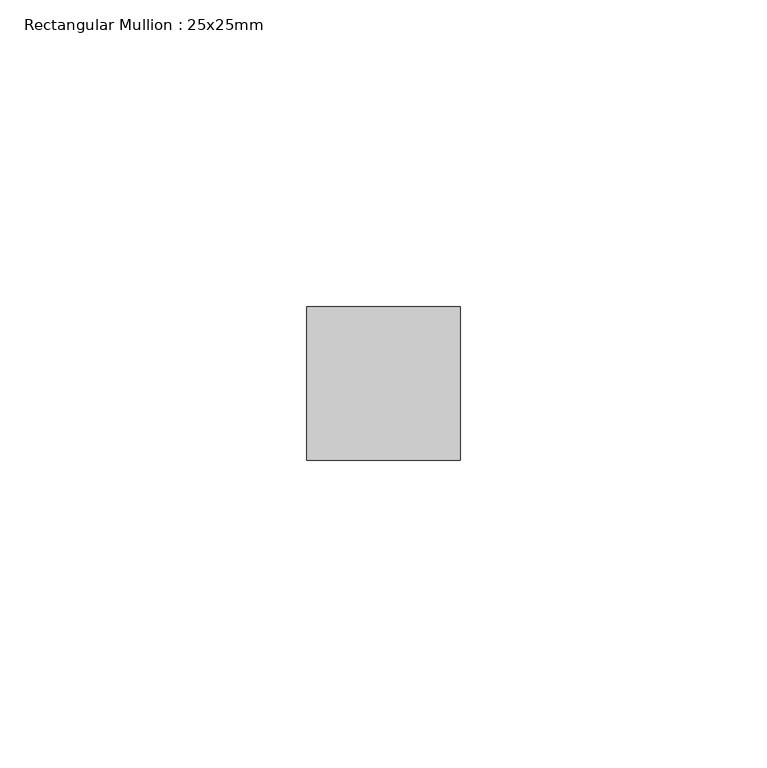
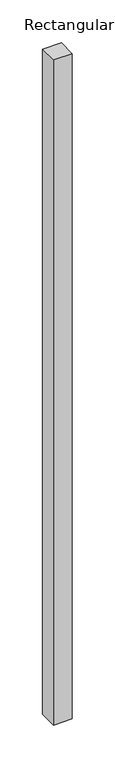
"""IFC4 building model written with IfcOpenShell, lengths in millimetres: member geometry, Rectangular Mullion : 25x25mm."""

import ifcopenshell
import ifcopenshell.guid

model = None  # the IFC model being written
_history = None  # IfcOwnerHistory: only IFC2X3 demands one
_inside = {}  # id of a spatial element -> (the spatial element, [elements in it])
_under = {}  # id of a project, library or spatial element -> (it, [spatial elements below it])
_declared = {}  # id of a project -> (the project, [libraries it declares])
_typed = {}  # id of a type object -> (the type object, [elements of that type])
_made_of = {}  # id of a material, layer set ... -> (it, [elements and type objects made of it])


def new_model(schema):
    """Start an empty IFC model of exactly this schema.

    Asked for "IFC4X3", IfcOpenShell would pick the latest addendum, in which some entities
    have other attributes; the version numbers below select the first issue.
    IFC2X3 requires an IfcOwnerHistory on every rooted entity: one is made here for all.
    """
    global model, _history
    if schema == "IFC4X3":
        model = ifcopenshell.file(schema_version=(4, 3, 0, 0))
    else:
        model = ifcopenshell.file(schema=schema)
    _inside.clear()
    _under.clear()
    _declared.clear()
    _typed.clear()
    _made_of.clear()
    _history = None
    if model.schema == "IFC2X3":
        org = make("IfcOrganization", Name="unknown")
        user = make(
            "IfcPersonAndOrganization",
            ThePerson=make("IfcPerson", FamilyName="unknown"),
            TheOrganization=org,
        )
        app = make(
            "IfcApplication",
            ApplicationDeveloper=org,
            Version="unknown",
            ApplicationFullName="unknown",
            ApplicationIdentifier="unknown",
        )
        _history = make(
            "IfcOwnerHistory",
            OwningUser=user,
            OwningApplication=app,
            ChangeAction="ADDED",
            CreationDate=0,
        )
    return model


def make(cls, **values):
    """One entity of the class cls with the attributes given. An attribute that is None is left unset."""
    return model.create_entity(
        cls, **{name: value for name, value in values.items() if value is not None}
    )


def rooted(cls, **values):
    """An entity with a GlobalId (a new one), such as an element, a storey or a relation."""
    return make(cls, GlobalId=ifcopenshell.guid.new(), OwnerHistory=_history, **values)


def si_unit(unit_type, name, prefix=None):
    """IfcSIUnit, for example si_unit("LENGTHUNIT", "METRE", prefix="MILLI")."""
    return make("IfcSIUnit", UnitType=unit_type, Prefix=prefix, Name=name)


def assignment(units):
    """IfcUnitAssignment: the units of a project."""
    return None if units is None else make("IfcUnitAssignment", Units=units)


def point(xyz):
    """IfcCartesianPoint."""
    return None if xyz is None else make("IfcCartesianPoint", Coordinates=xyz)


def direction(xyz):
    """IfcDirection."""
    return None if xyz is None else make("IfcDirection", DirectionRatios=xyz)


def frame(location, z_axis=None, x_axis=None):
    """IfcAxis2Placement3D, a coordinate frame: its origin and axes. An axis left out is left unset."""
    return make(
        "IfcAxis2Placement3D",
        Location=point(location),
        Axis=direction(z_axis),
        RefDirection=direction(x_axis),
    )


def origin():
    """The frame at (0, 0, 0) with its axes left unset."""
    return frame((0.0, 0.0, 0.0))


def place(relative_to, where):
    """IfcLocalPlacement: puts the frame where relative to a parent placement (None: the world)."""
    return make(
        "IfcLocalPlacement", PlacementRelTo=relative_to, RelativePlacement=where
    )


def context(
    kind, dimensions, precision=None, world=None, true_north=None, identifier=None
):
    """IfcGeometricRepresentationContext, for example the 3D "Model" context."""
    return make(
        "IfcGeometricRepresentationContext",
        ContextIdentifier=identifier,
        ContextType=kind,
        CoordinateSpaceDimension=dimensions,
        Precision=precision,
        WorldCoordinateSystem=world,
        TrueNorth=true_north,
    )


def project(units=None, contexts=None):
    """IfcProject with its units and contexts."""
    return rooted(
        "IfcProject",
        Name="project",
        RepresentationContexts=contexts,
        UnitsInContext=assignment(units),
    )


def spatial(cls, under=None, at=None, **own):
    """A site, building, storey or space (cls), placed at a placement, below another one or the project."""
    s = rooted(cls, ObjectPlacement=at, **own)
    if under is not None:
        _under.setdefault(under.id(), (under, []))[1].append(s)
    return s


def polyline(points):
    """IfcPolyline through the points."""
    return make("IfcPolyline", Points=[point(p) for p in points])


def outline(outer, holes=None, kind="AREA"):
    """IfcArbitraryClosedProfileDef: a profile drawn as a closed curve; with holes, ...WithVoids."""
    if holes is None:
        return make("IfcArbitraryClosedProfileDef", ProfileType=kind, OuterCurve=outer)
    return make(
        "IfcArbitraryProfileDefWithVoids",
        ProfileType=kind,
        OuterCurve=outer,
        InnerCurves=holes,
    )


def extrude(swept, where, along, depth):
    """IfcExtrudedAreaSolid: the profile swept, set in the frame where, extruded along a direction by depth."""
    return make(
        "IfcExtrudedAreaSolid",
        SweptArea=swept,
        Position=where,
        ExtrudedDirection=direction(along),
        Depth=depth,
    )


def shape(context_of_items, identifier, shape_type, items):
    """IfcShapeRepresentation: the items that make up one representation, for example the "Body"."""
    return make(
        "IfcShapeRepresentation",
        ContextOfItems=context_of_items,
        RepresentationIdentifier=identifier,
        RepresentationType=shape_type,
        Items=items,
    )


def source(mapping_origin, context_of_items, identifier, shape_type, items):
    """IfcRepresentationMap: a shape defined once, which mapped items show again and again."""
    return make(
        "IfcRepresentationMap",
        MappingOrigin=mapping_origin,
        MappedRepresentation=shape(context_of_items, identifier, shape_type, items),
    )


def transform(
    local_origin,
    x_axis=None,
    y_axis=None,
    z_axis=None,
    scale=None,
    scale2=None,
    scale3=None,
    uniform=True,
):
    """IfcCartesianTransformationOperator3D, or its non-uniform kind. x_axis, y_axis, z_axis: its Axis1, 2, 3."""
    if uniform:
        return make(
            "IfcCartesianTransformationOperator3D",
            Axis1=direction(x_axis),
            Axis2=direction(y_axis),
            LocalOrigin=point(local_origin),
            Scale=scale,
            Axis3=direction(z_axis),
        )
    return make(
        "IfcCartesianTransformationOperator3DnonUniform",
        Axis1=direction(x_axis),
        Axis2=direction(y_axis),
        LocalOrigin=point(local_origin),
        Scale=scale,
        Axis3=direction(z_axis),
        Scale2=scale2,
        Scale3=scale3,
    )


def mapped(mapping_source, mapping_target):
    """IfcMappedItem: shows the shape of a source again, moved by a transform."""
    return make(
        "IfcMappedItem", MappingSource=mapping_source, MappingTarget=mapping_target
    )


def made_of(thing, what):
    """Note that an element or type object is made of a material, layer set ...; save() writes the relation."""
    if what is not None:
        _made_of.setdefault(what.id(), (what, []))[1].append(thing)
    return thing


def element(
    cls,
    number,
    at=None,
    inside=None,
    cuts=None,
    type_object=None,
    material=None,
    context=None,
    identifier="Body",
    shape_type=None,
    held_by="IfcProductDefinitionShape",
    body=None,
    shapes=None,
    **own,
):
    """One element of the class cls, such as IfcWall. Its Tag is "e" and its number.

    at: its placement. inside: the storey or other place that contains it. cuts: it is an
    opening in that element (IfcRelVoidsElement). A single representation is given by context,
    identifier, shape_type and body (its items); several are given by shapes. held_by: the class
    of the entity that holds the representations. save() writes the other relations.
    """
    e = rooted(cls, Tag="e%d" % number, ObjectPlacement=at, **own)
    if body is not None:
        shapes = [shape(context, identifier, shape_type, body)]
    if shapes is not None:
        e.Representation = make(held_by, Representations=shapes)
    if inside is not None:
        _inside.setdefault(inside.id(), (inside, []))[1].append(e)
    if cuts is not None:
        rooted(
            "IfcRelVoidsElement", RelatingBuildingElement=cuts, RelatedOpeningElement=e
        )
    if type_object is not None:
        _typed.setdefault(type_object.id(), (type_object, []))[1].append(e)
    return made_of(e, material)


def aggregate(whole, parts):
    """IfcRelAggregates: a whole, such as a stair, and the parts it consists of."""
    return rooted("IfcRelAggregates", RelatingObject=whole, RelatedObjects=parts)


def save(model, path):
    """Write the relations noted so far, then the file.

    IfcRelAggregates (storeys below a building ...), IfcRelContainedInSpatialStructure (elements
    in a storey), IfcRelDefinesByType, IfcRelAssociatesMaterial and IfcRelDeclares: one each for
    every whole, place, type object, material and project.
    """
    for whole, parts in _under.values():
        aggregate(whole, parts)
    for where, things in _inside.values():
        rooted(
            "IfcRelContainedInSpatialStructure",
            RelatedElements=things,
            RelatingStructure=where,
        )
    for kind, things in _typed.values():
        rooted("IfcRelDefinesByType", RelatedObjects=things, RelatingType=kind)
    for what, things in _made_of.values():
        rooted("IfcRelAssociatesMaterial", RelatedObjects=things, RelatingMaterial=what)
    for by, libraries in _declared.values():
        rooted("IfcRelDeclares", RelatingContext=by, RelatedDefinitions=libraries)
    model.write(path)


def rectangular_mullion_25x25mm_5996006d(model_context):
    return source(origin(), model_context, "Body", "SweptSolid", [
        extrude(outline(polyline([(0.0, 24.5), (0.0, -0.5), (-25.0, -0.5), (-25.0, 24.5), (0.0, 24.5)])), frame((0.0, 0.0, -945.0), z_axis=(0.0, 0.0, 1.0), x_axis=(1.0, 0.0, 0.0)), (0.0, 0.0, 1.0), 945.0),
    ])


if __name__ == "__main__":
    model = new_model("IFC4")
    model_context = context("Model", 3, world=origin())
    ifc_project = project(units=[si_unit("LENGTHUNIT", "METRE", prefix="MILLI")], contexts=[model_context])
    site = spatial("IfcSite", under=ifc_project)
    building = spatial("IfcBuilding", under=site)
    placement = place(None, origin())
    rectangular_mullion_25x25mm_shape = rectangular_mullion_25x25mm_5996006d(model_context)
    element("IfcMember", 1, ObjectType="Rectangular Mullion : 25x25mm", at=placement, inside=building, context=model_context, shape_type="MappedRepresentation", body=[
        mapped(rectangular_mullion_25x25mm_shape, transform((0.0, 0.0, 0.0), x_axis=(1.0, 0.0, 0.0), y_axis=(0.0, 1.0, 0.0), z_axis=(0.0, 0.0, 1.0))),
    ])
    save(model, "model.ifc")
